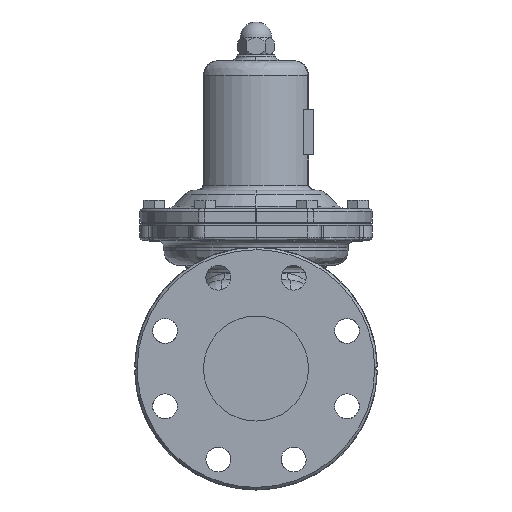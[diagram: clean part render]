
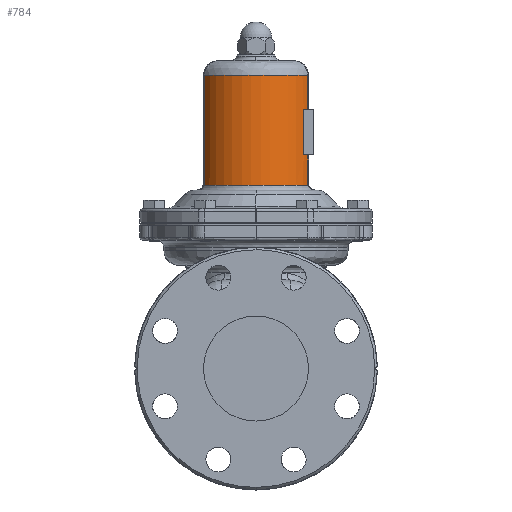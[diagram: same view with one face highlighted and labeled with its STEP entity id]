
A CAD part, left-side view. The second image highlights one B-rep face of the part: STEP entity #784.
In plain terms, the highlighted cylindrical face has radius 45 mm (diameter 90 mm), a partial arc.
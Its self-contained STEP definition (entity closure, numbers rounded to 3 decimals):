
#784=ADVANCED_FACE('',(#6186),#6185,.T.);
#6185=CYLINDRICAL_SURFACE('',#31924,45.);
#6186=FACE_OUTER_BOUND('',#31925,.T.);
#31921=CARTESIAN_POINT('',(0.,0.,70.939));
#31922=DIRECTION('',(0.,0.,-1.));
#31923=DIRECTION('',(-0.479,-0.878,0.));
#31924=AXIS2_PLACEMENT_3D('',#31921,#31922,#31923);
#31925=EDGE_LOOP('',(#38152,#38153,#38154,#38155,#38156,#38157,#38158,#38159,#38160,#38161,#38162,#38163));
#38152=ORIENTED_EDGE('',*,*,#40339,.F.);
#38153=ORIENTED_EDGE('',*,*,#40366,.T.);
#38154=ORIENTED_EDGE('',*,*,#40328,.T.);
#38155=ORIENTED_EDGE('',*,*,#40323,.T.);
#38156=ORIENTED_EDGE('',*,*,#40367,.T.);
#38157=ORIENTED_EDGE('',*,*,#40368,.T.);
#38158=ORIENTED_EDGE('',*,*,#40369,.T.);
#38159=ORIENTED_EDGE('',*,*,#40370,.T.);
#38160=ORIENTED_EDGE('',*,*,#40371,.T.);
#38161=ORIENTED_EDGE('',*,*,#40372,.T.);
#38162=ORIENTED_EDGE('',*,*,#40373,.F.);
#38163=ORIENTED_EDGE('',*,*,#40374,.F.);
#40323=EDGE_CURVE('',#48743,#48736,#48744,.T.);
#40328=EDGE_CURVE('',#48757,#48743,#48777,.T.);
#40339=EDGE_CURVE('',#48844,#48852,#48853,.T.);
#40366=EDGE_CURVE('',#48844,#48757,#49032,.T.);
#40367=EDGE_CURVE('',#48736,#49038,#49039,.T.);
#40368=EDGE_CURVE('',#49038,#49045,#49046,.T.);
#40369=EDGE_CURVE('',#49045,#49052,#49053,.T.);
#40370=EDGE_CURVE('',#49052,#49059,#49060,.T.);
#40371=EDGE_CURVE('',#49059,#49066,#49067,.T.);
#40372=EDGE_CURVE('',#49066,#49073,#49074,.T.);
#40373=EDGE_CURVE('',#49080,#49073,#49081,.T.);
#40374=EDGE_CURVE('',#48852,#49080,#49087,.T.);
#48736=VERTEX_POINT('',#62061);
#48743=VERTEX_POINT('',#62086);
#48744=CIRCLE('',#62090,45.);
#48757=VERTEX_POINT('',#62116);
#48777=CIRCLE('',#62133,2.582);
#48844=VERTEX_POINT('',#62217);
#48852=VERTEX_POINT('',#62223);
#48853=CIRCLE('',#62227,45.);
#49032=LINE('',#62380,#62381);
#49038=VERTEX_POINT('',#62383);
#49039=CIRCLE('',#62387,2.582);
#49045=VERTEX_POINT('',#62388);
#49046=LINE('',#62389,#62390);
#49052=VERTEX_POINT('',#62392);
#49053=(BOUNDED_CURVE() B_SPLINE_CURVE(3,(#62393,#62394,#62395,#62396,#62397,#62398),.UNSPECIFIED.,.F.,.F.) B_SPLINE_CURVE_WITH_KNOTS((4,2,4),(0.,0.001,0.002),.UNSPECIFIED.) CURVE() GEOMETRIC_REPRESENTATION_ITEM() RATIONAL_B_SPLINE_CURVE((1.,1.,1.,1.,1.,1.)) REPRESENTATION_ITEM('') );
#49059=VERTEX_POINT('',#62399);
#49060=CIRCLE('',#62403,45.);
#49066=VERTEX_POINT('',#62404);
#49067=(BOUNDED_CURVE() B_SPLINE_CURVE(3,(#62405,#62406,#62407,#62408),.UNSPECIFIED.,.F.,.F.) B_SPLINE_CURVE_WITH_KNOTS((4,4),(0.,0.002),.UNSPECIFIED.) CURVE() GEOMETRIC_REPRESENTATION_ITEM() RATIONAL_B_SPLINE_CURVE((1.,1.,1.,1.)) REPRESENTATION_ITEM('') );
#49073=VERTEX_POINT('',#62409);
#49074=LINE('',#62410,#62411);
#49080=VERTEX_POINT('',#62413);
#49081=CIRCLE('',#62417,45.);
#49087=LINE('',#62418,#62419);
#62061=CARTESIAN_POINT('',(-21.786,39.375,112.877));
#62086=CARTESIAN_POINT('',(-21.786,-39.375,112.877));
#62087=CARTESIAN_POINT('',(0.,0.,112.877));
#62088=DIRECTION('',(0.,0.,-1.));
#62089=DIRECTION('',(0.484,0.875,0.));
#62090=AXIS2_PLACEMENT_3D('',#62087,#62088,#62089);
#62116=CARTESIAN_POINT('',(-21.786,-39.375,112.847));
#62130=CARTESIAN_POINT('',(-24.045,-38.125,112.847));
#62131=DIRECTION('',(-0.484,-0.875,0.));
#62132=DIRECTION('',(-0.875,0.484,0.));
#62133=AXIS2_PLACEMENT_3D('',#62130,#62131,#62132);
#62217=CARTESIAN_POINT('',(-21.786,-39.375,86.75));
#62223=CARTESIAN_POINT('',(-26.5,-36.37,86.75));
#62224=CARTESIAN_POINT('',(0.,0.,86.75));
#62225=DIRECTION('',(0.,0.,-1.));
#62226=DIRECTION('',(0.484,0.875,0.));
#62227=AXIS2_PLACEMENT_3D('',#62224,#62225,#62226);
#62380=CARTESIAN_POINT('',(-21.786,-39.375,86.75));
#62381=VECTOR('',#62382,26.097);
#62382=DIRECTION('',(0.,0.,1.));
#62383=CARTESIAN_POINT('',(-21.786,39.375,112.847));
#62384=CARTESIAN_POINT('',(-24.045,38.125,112.847));
#62385=DIRECTION('',(-0.484,0.875,0.));
#62386=DIRECTION('',(-0.875,-0.484,-0.012));
#62387=AXIS2_PLACEMENT_3D('',#62384,#62385,#62386);
#62388=CARTESIAN_POINT('',(-21.786,39.375,30.5));
#62389=CARTESIAN_POINT('',(-21.786,39.375,112.847));
#62390=VECTOR('',#62391,82.347);
#62391=DIRECTION('',(0.,0.,-1.));
#62392=CARTESIAN_POINT('',(-21.554,39.502,29.));
#62393=CARTESIAN_POINT('',(-21.786,39.375,30.5));
#62394=CARTESIAN_POINT('',(-21.786,39.375,30.244));
#62395=CARTESIAN_POINT('',(-21.765,39.386,29.988));
#62396=CARTESIAN_POINT('',(-21.687,39.429,29.487));
#62397=CARTESIAN_POINT('',(-21.629,39.461,29.241));
#62398=CARTESIAN_POINT('',(-21.554,39.502,29.));
#62399=CARTESIAN_POINT('',(-21.554,-39.502,29.));
#62400=CARTESIAN_POINT('',(0.,0.,29.));
#62401=DIRECTION('',(0.,0.,1.));
#62402=DIRECTION('',(0.479,-0.878,0.));
#62403=AXIS2_PLACEMENT_3D('',#62400,#62401,#62402);
#62404=CARTESIAN_POINT('',(-21.786,-39.375,30.5));
#62405=CARTESIAN_POINT('',(-21.554,-39.502,29.));
#62406=CARTESIAN_POINT('',(-21.706,-39.419,29.486));
#62407=CARTESIAN_POINT('',(-21.786,-39.375,29.985));
#62408=CARTESIAN_POINT('',(-21.786,-39.375,30.5));
#62409=CARTESIAN_POINT('',(-21.786,-39.375,52.25));
#62410=CARTESIAN_POINT('',(-21.786,-39.375,30.5));
#62411=VECTOR('',#62412,21.75);
#62412=DIRECTION('',(0.,0.,1.));
#62413=CARTESIAN_POINT('',(-26.5,-36.37,52.25));
#62414=CARTESIAN_POINT('',(0.,0.,52.25));
#62415=DIRECTION('',(0.,0.,1.));
#62416=DIRECTION('',(0.589,0.808,0.));
#62417=AXIS2_PLACEMENT_3D('',#62414,#62415,#62416);
#62418=CARTESIAN_POINT('',(-26.5,-36.37,86.75));
#62419=VECTOR('',#62420,34.5);
#62420=DIRECTION('',(0.,0.,-1.));
